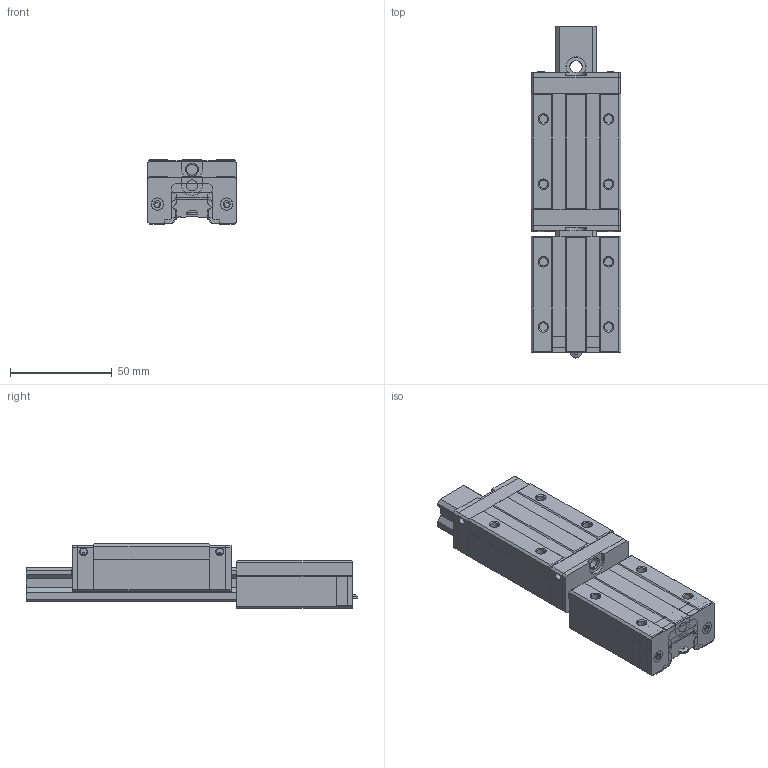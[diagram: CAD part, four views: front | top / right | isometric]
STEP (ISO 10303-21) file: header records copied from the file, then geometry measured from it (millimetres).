
FILE_DESCRIPTION( ( 'Unknown' ), '1' );
FILE_NAME( 'C:/Documents and Settings/USER/官帕 拳搁/沥脚 粱 瞒妨扼/20/SBI 20 CL.stp', 'Unknown', ( 'Unknown' ), ( 'Unknown' ), 'XStep 1.0', 'Unknown', ' ' );
FILE_SCHEMA( ( 'automotive_design' ) );
Length unit declared in the file: millimetre
Products named in the file (6): Assem1; RAIL; EP; ES; M3(5.5-2); CL
Bounding box: 44 x 162.75 x 31.45 mm (x, y, z)
Volume: 188015.8 mm3; surface area: 64193.8 mm2
Topology: 15 solids, 15 shells, 528 faces, 1349 edges, 885 vertices
Faces by surface type: plane 367, cylinder 120, cone 26, torus 10, bspline 5
Full cylindrical faces by diameter (mm): 1 x6, 2.459 x8, 3.4 x12, 3.5 x6, 4.134 x16, 5.333 x3, 5.5 x5, 6 x12, 6.4 x3, 9.5 x6
Entity records: 6370 total; most frequent: CARTESIAN_POINT 1101, DIRECTION 994, ORIENTED_EDGE 936, EDGE_CURVE 468, LINE 340, VECTOR 340, VERTEX_POINT 330, AXIS2_PLACEMENT_3D 327
